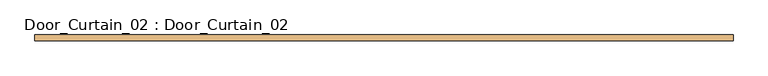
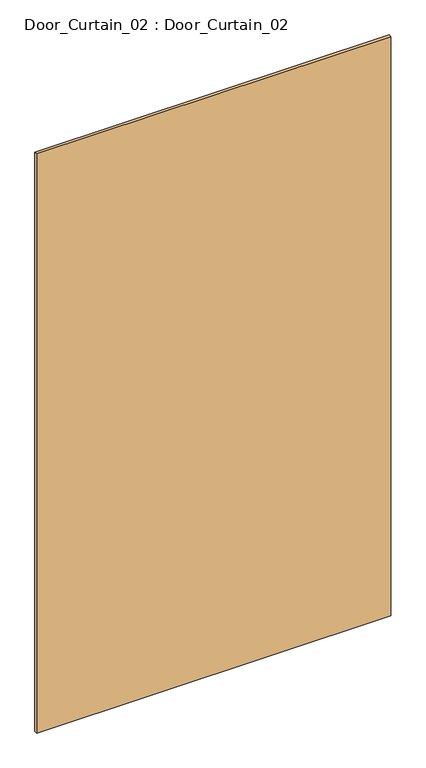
"""IFC4 building model written with IfcOpenShell, lengths in millimetres: door geometry, Door_Curtain_02 : Door_Curtain_02."""

from ifc_helpers import new_model, si_unit, origin, origin_with_axes, place, context, project, spatial, polyline, outline, extrude, source, transform, mapped, element, save


def door_curtain_02_door_curtain_02_5de22d37(model_context):
    return source(origin(), model_context, "Body", "SweptSolid", [
        extrude(outline(polyline([(752.4996442, 5.0), (752.4996442, -7.7), (-752.4996442, -7.7), (-752.4996442, 5.0), (752.4996442, 5.0)])), origin_with_axes(), (0.0, 0.0, 1.0), 2600.8896883),
    ])


if __name__ == "__main__":
    model = new_model("IFC4")
    model_context = context("Model", 3, world=origin())
    ifc_project = project(units=[si_unit("LENGTHUNIT", "METRE", prefix="MILLI")], contexts=[model_context])
    site = spatial("IfcSite", under=ifc_project)
    building = spatial("IfcBuilding", under=site)
    placement = place(None, origin())
    door_curtain_02_door_curtain_02_shape = door_curtain_02_door_curtain_02_5de22d37(model_context)
    element("IfcDoor", 1, ObjectType="Door_Curtain_02 : Door_Curtain_02", at=placement, inside=building, context=model_context, shape_type="MappedRepresentation", body=[
        mapped(door_curtain_02_door_curtain_02_shape, transform((0.0, 0.0, 0.0), x_axis=(1.0, 0.0, 0.0), y_axis=(0.0, 1.0, 0.0), z_axis=(0.0, 0.0, 1.0))),
    ])
    save(model, "model.ifc")
